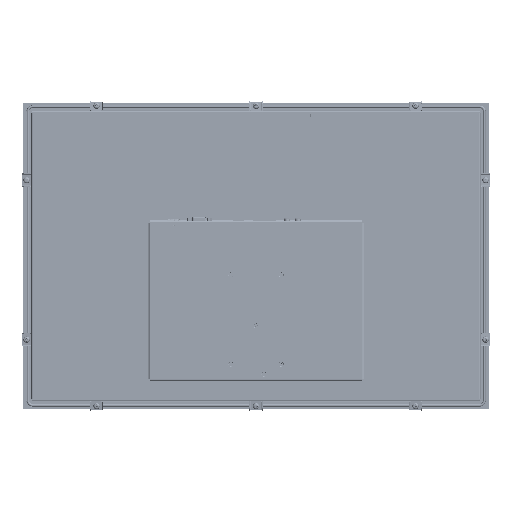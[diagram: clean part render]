
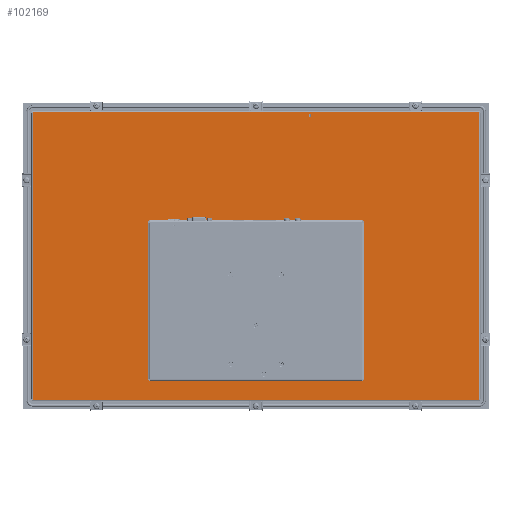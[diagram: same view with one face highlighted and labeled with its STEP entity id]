
A CAD part, front view. The second image highlights one B-rep face of the part: STEP entity #102169.
In plain terms, the highlighted planar face has unit normal (0, -1, 0).
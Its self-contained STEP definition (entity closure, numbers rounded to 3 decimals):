
#1077 = ORIENTED_EDGE ( 'NONE', *, *, #17004, .T. ) ;
#6774 = VECTOR ( 'NONE', #103339, 1000. ) ;
#8322 = LINE ( 'NONE', #150319, #77518 ) ;
#8724 = LINE ( 'NONE', #23268, #43331 ) ;
#16469 = CARTESIAN_POINT ( 'NONE',  ( -280., -11.3, 185.502 ) ) ;
#17004 = EDGE_CURVE ( 'NONE', #75786, #132122, #172566, .T. ) ;
#22432 = EDGE_CURVE ( 'NONE', #77245, #60563, #8322, .T. ) ;
#22759 = VERTEX_POINT ( 'NONE', #169779 ) ;
#23268 = CARTESIAN_POINT ( 'NONE',  ( -280., -11.3, 4.952 ) ) ;
#23511 = VECTOR ( 'NONE', #101060, 1000. ) ;
#23763 = CARTESIAN_POINT ( 'NONE',  ( 280., -11.3, 4.952 ) ) ;
#23786 = LINE ( 'NONE', #130347, #167163 ) ;
#25708 = VECTOR ( 'NONE', #51843, 1000. ) ;
#26015 = VERTEX_POINT ( 'NONE', #91798 ) ;
#26247 = EDGE_CURVE ( 'NONE', #132122, #141677, #91567, .T. ) ;
#26397 = CARTESIAN_POINT ( 'NONE',  ( 0., -11.3, 4.952 ) ) ;
#30853 = DIRECTION ( 'NONE',  ( 0.707, 0., 0.707 ) ) ;
#31866 = CARTESIAN_POINT ( 'NONE',  ( 280., -11.3, 4.952 ) ) ;
#36888 = ORIENTED_EDGE ( 'NONE', *, *, #148013, .T. ) ;
#38053 = ORIENTED_EDGE ( 'NONE', *, *, #26247, .T. ) ;
#40774 = CARTESIAN_POINT ( 'NONE',  ( 0., -11.3, -175.598 ) ) ;
#43033 = DIRECTION ( 'NONE',  ( -0.707, 0., -0.707 ) ) ;
#43331 = VECTOR ( 'NONE', #76997, 1000. ) ;
#46421 = CARTESIAN_POINT ( 'NONE',  ( -280., -11.3, 4.952 ) ) ;
#46575 = ORIENTED_EDGE ( 'NONE', *, *, #177896, .T. ) ;
#47477 = CARTESIAN_POINT ( 'NONE',  ( -135.25, -11.3, 50.102 ) ) ;
#47825 = CARTESIAN_POINT ( 'NONE',  ( 89.2, -11.3, 94.152 ) ) ;
#50526 = CARTESIAN_POINT ( 'NONE',  ( -135.25, -11.3, -152.398 ) ) ;
#50939 = CARTESIAN_POINT ( 'NONE',  ( 280., -11.3, 4.952 ) ) ;
#51181 = ORIENTED_EDGE ( 'NONE', *, *, #164229, .T. ) ;
#51843 = DIRECTION ( 'NONE',  ( 0., 0., 1. ) ) ;
#52818 = DIRECTION ( 'NONE',  ( -1., 0., 0. ) ) ;
#52847 = VECTOR ( 'NONE', #109352, 1000. ) ;
#52864 = VERTEX_POINT ( 'NONE', #131497 ) ;
#53170 = ORIENTED_EDGE ( 'NONE', *, *, #82349, .T. ) ;
#55422 = DIRECTION ( 'NONE',  ( -1., 0., 0. ) ) ;
#55580 = CARTESIAN_POINT ( 'NONE',  ( -280., -11.3, 4.952 ) ) ;
#56591 = VECTOR ( 'NONE', #30853, 1000. ) ;
#57649 = EDGE_CURVE ( 'NONE', #161496, #26015, #139458, .T. ) ;
#60563 = VERTEX_POINT ( 'NONE', #95046 ) ;
#65305 = EDGE_CURVE ( 'NONE', #107930, #52864, #85279, .T. ) ;
#66010 = DIRECTION ( 'NONE',  ( 0., 0., 1. ) ) ;
#70747 = DIRECTION ( 'NONE',  ( 1., 0., 0. ) ) ;
#71274 = EDGE_CURVE ( 'NONE', #60563, #91172, #23786, .T. ) ;
#71471 = CARTESIAN_POINT ( 'NONE',  ( -133.25, -11.3, 50.102 ) ) ;
#72278 = CARTESIAN_POINT ( 'NONE',  ( 280., -11.3, 185.502 ) ) ;
#75786 = VERTEX_POINT ( 'NONE', #117135 ) ;
#76449 = CARTESIAN_POINT ( 'NONE',  ( -280., -11.3, -175.598 ) ) ;
#76997 = DIRECTION ( 'NONE',  ( 0., 0., -1. ) ) ;
#77245 = VERTEX_POINT ( 'NONE', #97270 ) ;
#77518 = VECTOR ( 'NONE', #52818, 1000. ) ;
#78140 = ORIENTED_EDGE ( 'NONE', *, *, #150265, .T. ) ;
#79212 = FACE_BOUND ( 'NONE', #145591, .T. ) ;
#80059 = VECTOR ( 'NONE', #70747, 1000. ) ;
#82349 = EDGE_CURVE ( 'NONE', #117559, #75786, #160421, .T. ) ;
#85012 = CARTESIAN_POINT ( 'NONE',  ( -135.25, -11.3, -150.398 ) ) ;
#85279 = LINE ( 'NONE', #40774, #80059 ) ;
#86031 = DIRECTION ( 'NONE',  ( -1., 0., 0. ) ) ;
#87629 = EDGE_CURVE ( 'NONE', #141677, #77245, #113911, .T. ) ;
#88622 = VECTOR ( 'NONE', #93814, 1000. ) ;
#89070 = DIRECTION ( 'NONE',  ( 0., 0., 1. ) ) ;
#91172 = VERTEX_POINT ( 'NONE', #85012 ) ;
#91567 = LINE ( 'NONE', #175360, #166284 ) ;
#91798 = CARTESIAN_POINT ( 'NONE',  ( -280., -11.3, 184.531 ) ) ;
#92821 = LINE ( 'NONE', #50939, #25708 ) ;
#93814 = DIRECTION ( 'NONE',  ( 0., 0., 1. ) ) ;
#95046 = CARTESIAN_POINT ( 'NONE',  ( -133.25, -11.3, -152.398 ) ) ;
#95308 = EDGE_CURVE ( 'NONE', #97050, #135648, #137591, .T. ) ;
#95901 = VECTOR ( 'NONE', #89070, 1000. ) ;
#96703 = VECTOR ( 'NONE', #161339, 1000. ) ;
#97050 = VERTEX_POINT ( 'NONE', #115091 ) ;
#97270 = CARTESIAN_POINT ( 'NONE',  ( 133.25, -11.3, -152.398 ) ) ;
#101060 = DIRECTION ( 'NONE',  ( 0., 0., -1. ) ) ;
#101806 = LINE ( 'NONE', #31866, #95901 ) ;
#102169 = ADVANCED_FACE ( 'NONE', ( #121987, #79212 ), #106485, .F. ) ;
#103339 = DIRECTION ( 'NONE',  ( 0.707, 0., -0.707 ) ) ;
#106485 = PLANE ( 'NONE',  #146140 ) ;
#107930 = VERTEX_POINT ( 'NONE', #76449 ) ;
#109352 = DIRECTION ( 'NONE',  ( 0., 0., -1. ) ) ;
#110619 = EDGE_LOOP ( 'NONE', ( #150982, #51181, #46575, #123464, #78140, #144326, #154272, #167089 ) ) ;
#112392 = LINE ( 'NONE', #127894, #130112 ) ;
#113911 = LINE ( 'NONE', #179620, #168610 ) ;
#115091 = CARTESIAN_POINT ( 'NONE',  ( 280., -11.3, 184.531 ) ) ;
#117135 = CARTESIAN_POINT ( 'NONE',  ( 133.25, -11.3, 50.102 ) ) ;
#117559 = VERTEX_POINT ( 'NONE', #71471 ) ;
#118440 = DIRECTION ( 'NONE',  ( -0.707, 0., 0.707 ) ) ;
#119201 = CARTESIAN_POINT ( 'NONE',  ( -280., -11.3, -174.627 ) ) ;
#121987 = FACE_OUTER_BOUND ( 'NONE', #110619, .T. ) ;
#123464 = ORIENTED_EDGE ( 'NONE', *, *, #95308, .T. ) ;
#126318 = CARTESIAN_POINT ( 'NONE',  ( 280., -11.3, -174.627 ) ) ;
#127581 = VERTEX_POINT ( 'NONE', #126318 ) ;
#127894 = CARTESIAN_POINT ( 'NONE',  ( 0., -11.3, 185.502 ) ) ;
#130112 = VECTOR ( 'NONE', #86031, 1000. ) ;
#130347 = CARTESIAN_POINT ( 'NONE',  ( -145.3, -11.3, -140.348 ) ) ;
#131497 = CARTESIAN_POINT ( 'NONE',  ( 280., -11.3, -175.598 ) ) ;
#132122 = VERTEX_POINT ( 'NONE', #170024 ) ;
#133499 = VECTOR ( 'NONE', #66010, 1000. ) ;
#134239 = VERTEX_POINT ( 'NONE', #119201 ) ;
#135264 = LINE ( 'NONE', #50526, #133499 ) ;
#135648 = VERTEX_POINT ( 'NONE', #72278 ) ;
#137591 = LINE ( 'NONE', #23763, #88622 ) ;
#139458 = LINE ( 'NONE', #55580, #52847 ) ;
#141007 = CARTESIAN_POINT ( 'NONE',  ( -89.2, -11.3, 94.152 ) ) ;
#141677 = VERTEX_POINT ( 'NONE', #145344 ) ;
#142788 = LINE ( 'NONE', #141007, #56591 ) ;
#144326 = ORIENTED_EDGE ( 'NONE', *, *, #57649, .T. ) ;
#145344 = CARTESIAN_POINT ( 'NONE',  ( 135.25, -11.3, -150.398 ) ) ;
#145591 = EDGE_LOOP ( 'NONE', ( #53170, #1077, #38053, #171187, #176207, #168088, #159411, #36888 ) ) ;
#146140 = AXIS2_PLACEMENT_3D ( 'NONE', #26397, #168357, #55422 ) ;
#148013 = EDGE_CURVE ( 'NONE', #22759, #117559, #142788, .T. ) ;
#150265 = EDGE_CURVE ( 'NONE', #135648, #161496, #112392, .T. ) ;
#150319 = CARTESIAN_POINT ( 'NONE',  ( -135.25, -11.3, -152.398 ) ) ;
#150982 = ORIENTED_EDGE ( 'NONE', *, *, #65305, .T. ) ;
#154272 = ORIENTED_EDGE ( 'NONE', *, *, #163898, .T. ) ;
#158459 = LINE ( 'NONE', #46421, #23511 ) ;
#159411 = ORIENTED_EDGE ( 'NONE', *, *, #163879, .T. ) ;
#160421 = LINE ( 'NONE', #47477, #96703 ) ;
#160611 = EDGE_CURVE ( 'NONE', #134239, #107930, #158459, .T. ) ;
#161339 = DIRECTION ( 'NONE',  ( 1., 0., 0. ) ) ;
#161496 = VERTEX_POINT ( 'NONE', #16469 ) ;
#163879 = EDGE_CURVE ( 'NONE', #91172, #22759, #135264, .T. ) ;
#163898 = EDGE_CURVE ( 'NONE', #26015, #134239, #8724, .T. ) ;
#164229 = EDGE_CURVE ( 'NONE', #52864, #127581, #101806, .T. ) ;
#166284 = VECTOR ( 'NONE', #176288, 1000. ) ;
#167089 = ORIENTED_EDGE ( 'NONE', *, *, #160611, .T. ) ;
#167163 = VECTOR ( 'NONE', #118440, 1000. ) ;
#168088 = ORIENTED_EDGE ( 'NONE', *, *, #71274, .T. ) ;
#168357 = DIRECTION ( 'NONE',  ( 0., 1., 0. ) ) ;
#168610 = VECTOR ( 'NONE', #43033, 1000. ) ;
#169779 = CARTESIAN_POINT ( 'NONE',  ( -135.25, -11.3, 48.102 ) ) ;
#170024 = CARTESIAN_POINT ( 'NONE',  ( 135.25, -11.3, 48.102 ) ) ;
#171187 = ORIENTED_EDGE ( 'NONE', *, *, #87629, .T. ) ;
#172566 = LINE ( 'NONE', #47825, #6774 ) ;
#175360 = CARTESIAN_POINT ( 'NONE',  ( 135.25, -11.3, -152.398 ) ) ;
#176207 = ORIENTED_EDGE ( 'NONE', *, *, #22432, .T. ) ;
#176288 = DIRECTION ( 'NONE',  ( 0., 0., -1. ) ) ;
#177896 = EDGE_CURVE ( 'NONE', #127581, #97050, #92821, .T. ) ;
#179620 = CARTESIAN_POINT ( 'NONE',  ( 145.3, -11.3, -140.348 ) ) ;
